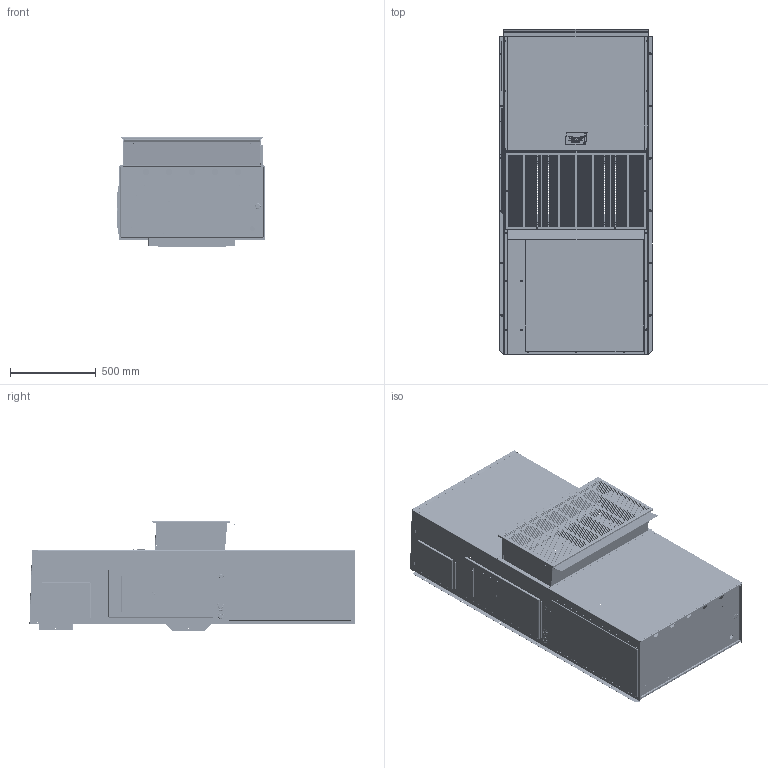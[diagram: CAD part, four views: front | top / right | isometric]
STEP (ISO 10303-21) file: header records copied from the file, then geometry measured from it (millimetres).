
FILE_DESCRIPTION (( 'STEP AP203' ), '1' );
FILE_NAME ('STEP_700_7.STEP', '2016-06-21T15:57:18', ( '' ), ( '' ), 'SwSTEP 2.0', 'SolidWorks 2016', '' );
FILE_SCHEMA (( 'CONFIG_CONTROL_DESIGN' ));
Products named in the file (1): STEP_700_7
Bounding box: 888.56 x 1893.77 x 635.56 mm (x, y, z)
Volume: 6631564.2 mm3; surface area: 14397625.4 mm2
Topology: 80 solids, 80 shells, 11017 faces, 28801 edges, 18112 vertices
Faces by surface type: plane 4889, cylinder 2860, bspline 2817, cone 202, torus 164, sphere 85
Entity records: 459154 total; most frequent: CARTESIAN_POINT 211940, ORIENTED_EDGE 57494, DIRECTION 41636, EDGE_CURVE 28747, VERTEX_POINT 18103, VECTOR 15426, LINE 15426, AXIS2_PLACEMENT_3D 13105
